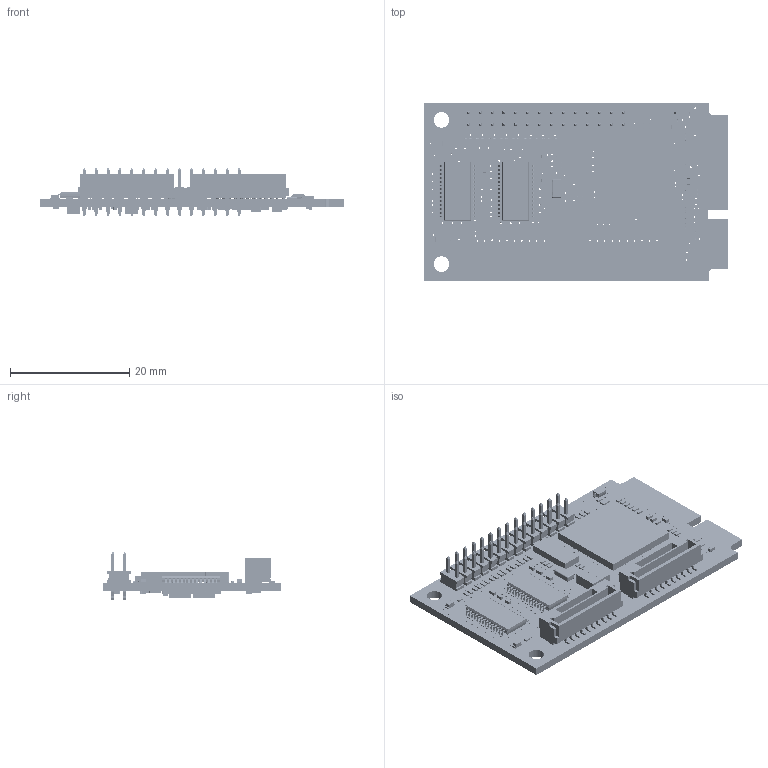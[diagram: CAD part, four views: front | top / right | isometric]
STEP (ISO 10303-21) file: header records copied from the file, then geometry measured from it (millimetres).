
FILE_DESCRIPTION(/* description */ ('PCB Design'),/* implementation_level */ '2;1');
FILE_NAME(/* name */ '7150500_Rev_A_DSMPE_SER4M_27MAR13-3D',/* time_stamp */ '2020-05-24T00:01:06+06:00',/* author */ (''),/* organization */ (''),/* preprocessor_version */ 'ST-DEVELOPER v16',/* originating_system */ 'allegro_17.2S058',/* authorisation */ '');
FILE_SCHEMA (('AP203_CONFIGURATION_CONTROLLED_3D_DESIGN_OF_MECHANICAL_PARTS_AND_ASSEMBLIES_MIM_LF { 1 0 10303 203 3 1 4 }'));
Length unit declared in the file: millimetre
Products named in the file (33): 7150500_REV_A_DSMPE_SER4M_27MAR13_2; BOARD_OUTLINE; COMPONENTS; MINI_PCIE_CARD_P52; CN_SMT_1_25P_H4_35_P10_RA_ST; HDR_2P_H5_5P2X14_ST_TH; SM0603LED_AC; TSSOP9_7X4_4_H1_1_P28; SC70_H1_1_P5; CAP_1206_H1_8; IND4X4_H2_P2; BGA13SQ_B0_32_PS0_8-HT1_2_P176; TSSOP3X4_P0_65_H1_2_P8; IND_0603-HT0_9; DIO_SOD-323_H1_1_P2; CAP_0603-HT0_9; RES_0402; TP30T; CAP_0402; BM10B-GHS; PTT-114-01-S-D; _PTT-114-01-S-D_t; _PTT-114-01-S-D_p; APT1608; product; Document; TMPF0402LRV; CCS_CCSTD_0402_L1.05W0.55T0.55B0.3
Assembly tree (171 placements, depth 5):
  7150500_REV_A_DSMPE_SER4M_27MAR13_2
    BOARD_OUTLINE
    COMPONENTS
      MINI_PCIE_CARD_P52
      CN_SMT_1_25P_H4_35_P10_RA_ST  x2
        BM10B-GHS
      HDR_2P_H5_5P2X14_ST_TH
        PTT-114-01-S-D
          _PTT-114-01-S-D_t
          _PTT-114-01-S-D_p
      SM0603LED_AC  x2
        APT1608
      TSSOP9_7X4_4_H1_1_P28  x2
        product
      SC70_H1_1_P5  x4
      CAP_1206_H1_8
        Document
      IND4X4_H2_P2
        TMPF0402LRV
      BGA13SQ_B0_32_PS0_8-HT1_2_P176
        product
      TSSOP3X4_P0_65_H1_2_P8
      IND_0603-HT0_9  x2
        product
      DIO_SOD-323_H1_1_P2
        product
      CAP_0603-HT0_9  x8
        Document
      RES_0402  x67
        Document
      TP30T  x8
      CAP_0402  x53
        CCS_CCSTD_0402_L1.05W0.55T0.55B0.3
Bounding box: 50.95 x 30 x 8.03 mm (x, y, z)
Volume: 605.9 mm3; surface area: 7429.2 mm2
Topology: 550 solids, 8256 shells, 19419 faces, 52652 edges, 40968 vertices
Faces by surface type: plane 14425, cylinder 2931, bspline 1214, sphere 848, cone 1
Full cylindrical faces by diameter (mm): 0.225 x2, 1.5 x1, 3.2 x1
Entity records: 361706 total; most frequent: CARTESIAN_POINT 78703, DIRECTION 47788, ORIENTED_EDGE 37518, EDGE_CURVE 30145, VERTEX_POINT 27988, VECTOR 27847, LINE 27847, AXIS2_PLACEMENT_3D 11982
